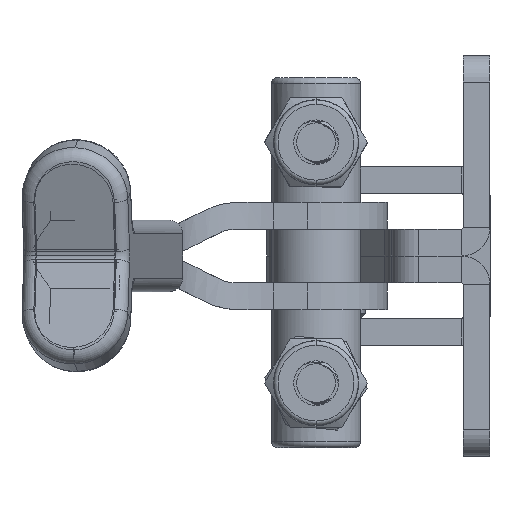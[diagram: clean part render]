
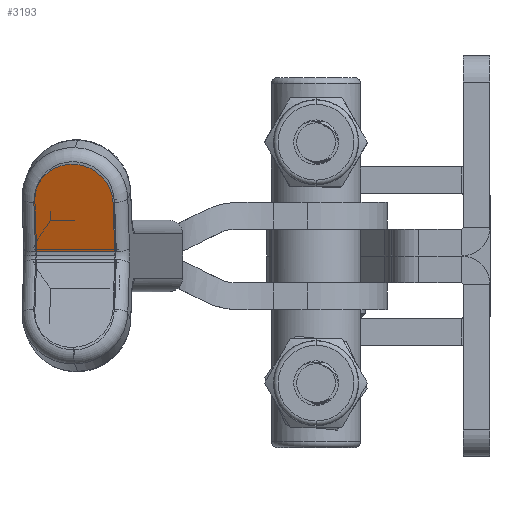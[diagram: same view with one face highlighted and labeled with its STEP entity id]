
A CAD part, left-side view. The second image highlights one B-rep face of the part: STEP entity #3193.
In plain terms, the highlighted planar face has unit normal (-0.952, 0.11, -0.286) as drawn and (0.952, 0.11, 0.286) by its records, which use the part's own axes.
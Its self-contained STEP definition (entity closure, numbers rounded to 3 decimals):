
#2022 = ORIENTED_EDGE ( 'NONE', *, *, #7850, .T. ) ;
#2662 = FACE_OUTER_BOUND ( 'NONE', #25401, .T. ) ;
#3193 = ADVANCED_FACE ( 'NONE', ( #2662 ), #11436, .F. ) ;
#4620 = EDGE_CURVE ( 'NONE', #15171, #21019, #12200, .T. ) ;
#5428 = VECTOR ( 'NONE', #24464, 1000. ) ;
#5669 = CARTESIAN_POINT ( 'NONE',  ( 105.702, 34.578, 6.979 ) ) ;
#6727 = CARTESIAN_POINT ( 'NONE',  ( 108.498, 25.907, 0.995 ) ) ;
#6781 = LINE ( 'NONE', #5669, #26213 ) ;
#7850 = EDGE_CURVE ( 'NONE', #30635, #15171, #26700, .T. ) ;
#8589 = ORIENTED_EDGE ( 'NONE', *, *, #24843, .T. ) ;
#9243 = CARTESIAN_POINT ( 'NONE',  ( 107.986, 30.344, 0.995 ) ) ;
#10188 = CARTESIAN_POINT ( 'NONE',  ( 107.474, 34.782, 0.995 ) ) ;
#11436 = PLANE ( 'NONE',  #15593 ) ;
#11801 = DIRECTION ( 'NONE',  ( -0.287, 0., 0.958 ) ) ;
#12200 = LINE ( 'NONE', #6727, #5428 ) ;
#12360 = CARTESIAN_POINT ( 'NONE',  ( 106.853, 25.717, 6.551 ) ) ;
#13962 = DIRECTION ( 'NONE',  ( -0.952, -0.11, -0.286 ) ) ;
#15171 = VERTEX_POINT ( 'NONE', #12360 ) ;
#15593 = AXIS2_PLACEMENT_3D ( 'NONE', #26611, #13962, #31722 ) ;
#16371 = VERTEX_POINT ( 'NONE', #10188 ) ;
#17094 = ORIENTED_EDGE ( 'NONE', *, *, #4620, .T. ) ;
#17183 = EDGE_CURVE ( 'NONE', #16371, #30635, #6781, .T. ) ;
#19974 = CARTESIAN_POINT ( 'NONE',  ( 105.829, 34.592, 6.551 ) ) ;
#21019 = VERTEX_POINT ( 'NONE', #31082 ) ;
#24464 = DIRECTION ( 'NONE',  ( 0.284, 0.033, -0.958 ) ) ;
#24843 = EDGE_CURVE ( 'NONE', #21019, #16371, #25810, .T. ) ;
#25401 = EDGE_LOOP ( 'NONE', ( #17094, #8589, #26751, #2022 ) ) ;
#25810 = CIRCLE ( 'NONE', #28087, 4.467 ) ;
#25911 = VECTOR ( 'NONE', #29905, 1000. ) ;
#26090 = DIRECTION ( 'NONE',  ( -0.284, -0.033, 0.958 ) ) ;
#26213 = VECTOR ( 'NONE', #26090, 1000. ) ;
#26611 = CARTESIAN_POINT ( 'NONE',  ( 95.331, 63.577, 30.395 ) ) ;
#26700 = LINE ( 'NONE', #27352, #25911 ) ;
#26751 = ORIENTED_EDGE ( 'NONE', *, *, #17183, .T. ) ;
#26959 = DIRECTION ( 'NONE',  ( 0.952, 0.11, 0.286 ) ) ;
#27352 = CARTESIAN_POINT ( 'NONE',  ( 107.025, 24.227, 6.551 ) ) ;
#28087 = AXIS2_PLACEMENT_3D ( 'NONE', #9243, #26959, #11801 ) ;
#29905 = DIRECTION ( 'NONE',  ( 0.115, -0.993, 0. ) ) ;
#30635 = VERTEX_POINT ( 'NONE', #19974 ) ;
#31082 = CARTESIAN_POINT ( 'NONE',  ( 108.498, 25.907, 0.995 ) ) ;
#31722 = DIRECTION ( 'NONE',  ( -0.287, 0., 0.958 ) ) ;
